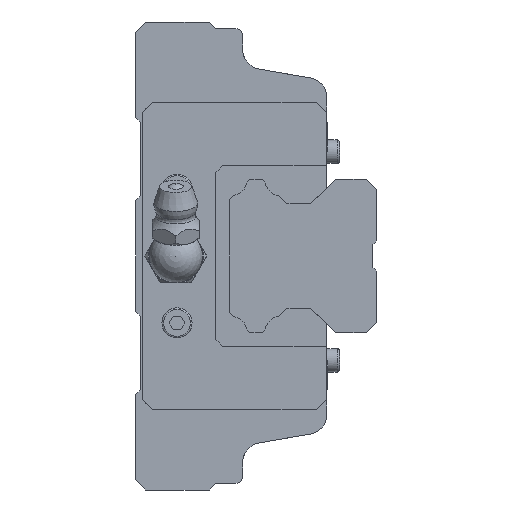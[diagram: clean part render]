
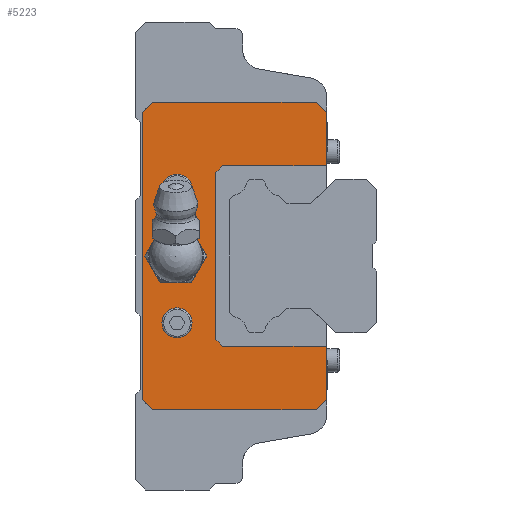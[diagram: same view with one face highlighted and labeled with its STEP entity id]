
A CAD part, left-side view. The second image highlights one B-rep face of the part: STEP entity #5223.
In plain terms, the highlighted planar face has unit normal (-1, 0, 0).
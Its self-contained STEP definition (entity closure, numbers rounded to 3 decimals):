
#269=CIRCLE('',#5681,3.);
#270=CIRCLE('',#5682,2.25);
#271=CIRCLE('',#5683,2.25);
#440=LINE('',#7749,#964);
#453=LINE('',#7776,#977);
#456=LINE('',#7781,#980);
#466=LINE('',#7801,#990);
#473=LINE('',#7815,#997);
#477=LINE('',#7822,#1001);
#506=LINE('',#7877,#1030);
#598=LINE('',#8090,#1122);
#604=LINE('',#8102,#1128);
#710=LINE('',#8517,#1234);
#711=LINE('',#8520,#1235);
#712=LINE('',#8521,#1236);
#713=LINE('',#8523,#1237);
#714=LINE('',#8525,#1238);
#964=VECTOR('',#6236,1000.);
#977=VECTOR('',#6251,1000.);
#980=VECTOR('',#6256,1000.);
#990=VECTOR('',#6270,1000.);
#997=VECTOR('',#6281,1000.);
#1001=VECTOR('',#6287,1000.);
#1030=VECTOR('',#6330,1000.);
#1122=VECTOR('',#6478,1000.);
#1128=VECTOR('',#6486,1000.);
#1234=VECTOR('',#6838,1000.);
#1235=VECTOR('',#6839,1000.);
#1236=VECTOR('',#6840,1000.);
#1237=VECTOR('',#6841,1000.);
#1238=VECTOR('',#6842,1000.);
#2300=ORIENTED_EDGE('',*,*,#3379,.T.);
#2301=ORIENTED_EDGE('',*,*,#3380,.F.);
#2302=ORIENTED_EDGE('',*,*,#3381,.F.);
#2303=ORIENTED_EDGE('',*,*,#3382,.T.);
#2304=ORIENTED_EDGE('',*,*,#3383,.T.);
#2305=ORIENTED_EDGE('',*,*,#3204,.F.);
#2306=ORIENTED_EDGE('',*,*,#3065,.F.);
#2307=ORIENTED_EDGE('',*,*,#3061,.F.);
#2308=ORIENTED_EDGE('',*,*,#3054,.F.);
#2309=ORIENTED_EDGE('',*,*,#3094,.F.);
#2310=ORIENTED_EDGE('',*,*,#3028,.F.);
#2311=ORIENTED_EDGE('',*,*,#3044,.F.);
#2312=ORIENTED_EDGE('',*,*,#3041,.F.);
#2313=ORIENTED_EDGE('',*,*,#3210,.F.);
#2314=ORIENTED_EDGE('',*,*,#3384,.T.);
#2315=ORIENTED_EDGE('',*,*,#3385,.T.);
#2316=ORIENTED_EDGE('',*,*,#3386,.T.);
#3028=EDGE_CURVE('',#3718,#3719,#440,.T.);
#3041=EDGE_CURVE('',#3731,#3732,#453,.T.);
#3044=EDGE_CURVE('',#3732,#3718,#456,.T.);
#3054=EDGE_CURVE('',#3740,#3741,#466,.T.);
#3061=EDGE_CURVE('',#3741,#3746,#473,.T.);
#3065=EDGE_CURVE('',#3746,#3748,#477,.T.);
#3094=EDGE_CURVE('',#3719,#3740,#506,.T.);
#3204=EDGE_CURVE('',#3748,#3860,#598,.T.);
#3210=EDGE_CURVE('',#3864,#3731,#604,.T.);
#3379=EDGE_CURVE('',#3972,#3972,#269,.T.);
#3380=EDGE_CURVE('',#3973,#3973,#270,.F.);
#3381=EDGE_CURVE('',#3974,#3974,#271,.F.);
#3382=EDGE_CURVE('',#3975,#3976,#710,.T.);
#3383=EDGE_CURVE('',#3976,#3860,#711,.T.);
#3384=EDGE_CURVE('',#3864,#3977,#712,.T.);
#3385=EDGE_CURVE('',#3977,#3978,#713,.T.);
#3386=EDGE_CURVE('',#3978,#3975,#714,.T.);
#3718=VERTEX_POINT('',#7748);
#3719=VERTEX_POINT('',#7750);
#3731=VERTEX_POINT('',#7775);
#3732=VERTEX_POINT('',#7777);
#3740=VERTEX_POINT('',#7800);
#3741=VERTEX_POINT('',#7802);
#3746=VERTEX_POINT('',#7816);
#3748=VERTEX_POINT('',#7823);
#3860=VERTEX_POINT('',#8091);
#3864=VERTEX_POINT('',#8101);
#3972=VERTEX_POINT('',#8512);
#3973=VERTEX_POINT('',#8514);
#3974=VERTEX_POINT('',#8516);
#3975=VERTEX_POINT('',#8518);
#3976=VERTEX_POINT('',#8519);
#3977=VERTEX_POINT('',#8522);
#3978=VERTEX_POINT('',#8524);
#4312=EDGE_LOOP('',(#2300));
#4313=EDGE_LOOP('',(#2301));
#4314=EDGE_LOOP('',(#2302));
#4315=EDGE_LOOP('',(#2303,#2304,#2305,#2306,#2307,#2308,#2309,#2310,#2311,
#2312,#2313,#2314,#2315,#2316));
#4683=FACE_BOUND('',#4312,.T.);
#4684=FACE_BOUND('',#4313,.T.);
#4685=FACE_BOUND('',#4314,.T.);
#4686=FACE_BOUND('',#4315,.T.);
#4971=PLANE('',#5680);
#5223=ADVANCED_FACE('',(#4683,#4684,#4685,#4686),#4971,.F.);
#5680=AXIS2_PLACEMENT_3D('',#8510,#6830,#6831);
#5681=AXIS2_PLACEMENT_3D('',#8511,#6832,#6833);
#5682=AXIS2_PLACEMENT_3D('',#8513,#6834,#6835);
#5683=AXIS2_PLACEMENT_3D('',#8515,#6836,#6837);
#6236=DIRECTION('',(0.,0.707,0.707));
#6251=DIRECTION('',(0.,0.707,-0.707));
#6256=DIRECTION('',(0.,1.,0.));
#6270=DIRECTION('',(0.,-0.707,0.707));
#6281=DIRECTION('',(0.,-1.,0.));
#6287=DIRECTION('',(0.,-0.707,-0.707));
#6330=DIRECTION('',(0.,0.,1.));
#6478=DIRECTION('',(0.,0.,-1.));
#6486=DIRECTION('',(0.,0.,-1.));
#6830=DIRECTION('',(1.,0.,0.));
#6831=DIRECTION('',(0.,0.,-1.));
#6832=DIRECTION('',(1.,0.,0.));
#6833=DIRECTION('',(0.,0.,-1.));
#6834=DIRECTION('',(1.,0.,0.));
#6835=DIRECTION('',(0.,0.,-1.));
#6836=DIRECTION('',(1.,0.,0.));
#6837=DIRECTION('',(0.,0.,-1.));
#6838=DIRECTION('',(0.,-0.707,0.707));
#6839=DIRECTION('',(0.,-1.,0.));
#6840=DIRECTION('',(0.,1.,0.));
#6841=DIRECTION('',(0.,0.707,0.707));
#6842=DIRECTION('',(0.,0.,1.));
#7748=CARTESIAN_POINT('',(-49.5,28.,-23.));
#7749=CARTESIAN_POINT('',(-49.5,28.,-23.));
#7750=CARTESIAN_POINT('',(-49.5,29.5,-21.5));
#7775=CARTESIAN_POINT('',(-49.5,2.,-21.5));
#7776=CARTESIAN_POINT('',(-49.5,2.,-21.5));
#7777=CARTESIAN_POINT('',(-49.5,3.5,-23.));
#7781=CARTESIAN_POINT('',(-49.5,0.,-23.));
#7800=CARTESIAN_POINT('',(-49.5,29.5,21.5));
#7801=CARTESIAN_POINT('',(-49.5,29.5,21.5));
#7802=CARTESIAN_POINT('',(-49.5,28.,23.));
#7815=CARTESIAN_POINT('',(-49.5,30.5,23.));
#7816=CARTESIAN_POINT('',(-49.5,3.5,23.));
#7822=CARTESIAN_POINT('',(-49.5,3.5,23.));
#7823=CARTESIAN_POINT('',(-49.5,2.,21.5));
#7877=CARTESIAN_POINT('',(-49.5,29.5,-21.5));
#8090=CARTESIAN_POINT('',(-49.5,2.,21.5));
#8091=CARTESIAN_POINT('',(-49.5,2.,13.5));
#8101=CARTESIAN_POINT('',(-49.5,2.,-13.5));
#8102=CARTESIAN_POINT('',(-49.5,2.,21.5));
#8510=CARTESIAN_POINT('',(-49.5,0.,0.));
#8511=CARTESIAN_POINT('',(-49.5,24.5,0.));
#8512=CARTESIAN_POINT('',(-49.5,24.5,-3.));
#8513=CARTESIAN_POINT('',(-49.5,24.317,10.));
#8514=CARTESIAN_POINT('',(-49.5,24.317,7.75));
#8515=CARTESIAN_POINT('',(-49.5,24.317,-10.));
#8516=CARTESIAN_POINT('',(-49.5,24.317,-12.25));
#8517=CARTESIAN_POINT('',(-49.5,18.5,12.5));
#8518=CARTESIAN_POINT('',(-49.5,18.5,12.5));
#8519=CARTESIAN_POINT('',(-49.5,17.5,13.5));
#8520=CARTESIAN_POINT('',(-49.5,17.5,13.5));
#8521=CARTESIAN_POINT('',(-49.5,2.,-13.5));
#8522=CARTESIAN_POINT('',(-49.5,17.5,-13.5));
#8523=CARTESIAN_POINT('',(-49.5,17.5,-13.5));
#8524=CARTESIAN_POINT('',(-49.5,18.5,-12.5));
#8525=CARTESIAN_POINT('',(-49.5,18.5,-12.5));
